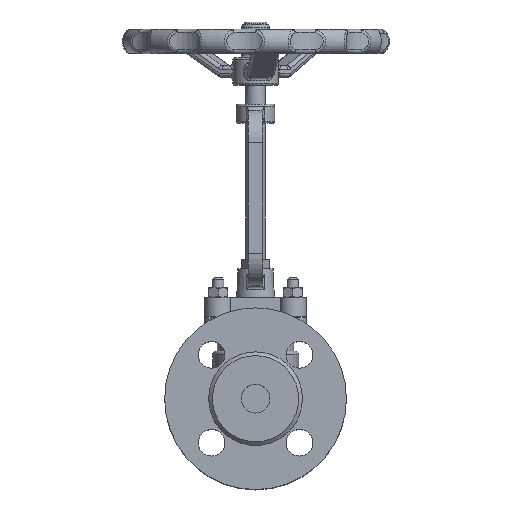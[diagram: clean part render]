
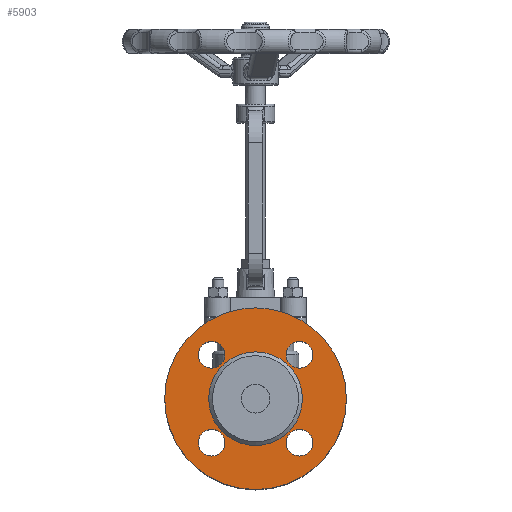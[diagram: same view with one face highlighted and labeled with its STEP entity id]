
A CAD part, top view. The second image highlights one B-rep face of the part: STEP entity #5903.
In plain terms, the highlighted planar face has unit normal (0, 0, 1).
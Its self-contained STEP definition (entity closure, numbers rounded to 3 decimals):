
#5903=ADVANCED_FACE('',(#13825,#13827,#13829,#13831,#13833,#13835),#13837,.F.);
#13825=FACE_BOUND('',#13826,.T.);
#13826=EDGE_LOOP('',(#20973));
#13827=FACE_BOUND('',#13828,.T.);
#13828=EDGE_LOOP('',(#20974));
#13829=FACE_BOUND('',#13830,.T.);
#13830=EDGE_LOOP('',(#20975));
#13831=FACE_BOUND('',#13832,.T.);
#13832=EDGE_LOOP('',(#20976));
#13833=FACE_BOUND('',#13834,.T.);
#13834=EDGE_LOOP('',(#20977));
#13835=FACE_BOUND('',#13836,.T.);
#13836=EDGE_LOOP('',(#20978));
#13837=PLANE('',#13838);
#13838=AXIS2_PLACEMENT_3D('',#13839,#13840,#13841);
#13839=CARTESIAN_POINT('',(0.,0.,63.));
#13840=DIRECTION('',(0.,0.,-1.));
#13841=DIRECTION('',(0.,1.,0.));
#20973=ORIENTED_EDGE('',*,*,#23483,.T.);
#20974=ORIENTED_EDGE('',*,*,#23484,.T.);
#20975=ORIENTED_EDGE('',*,*,#23485,.T.);
#20976=ORIENTED_EDGE('',*,*,#23625,.F.);
#20977=ORIENTED_EDGE('',*,*,#23486,.T.);
#20978=ORIENTED_EDGE('',*,*,#23487,.T.);
#23483=EDGE_CURVE('',#26663,#26663,#26664,.T.);
#23484=EDGE_CURVE('',#26665,#26665,#26666,.T.);
#23485=EDGE_CURVE('',#26667,#26667,#26668,.T.);
#23486=EDGE_CURVE('',#26669,#26669,#26670,.T.);
#23487=EDGE_CURVE('',#26671,#26671,#26672,.T.);
#23625=EDGE_CURVE('',#26883,#26883,#26884,.T.);
#26663=VERTEX_POINT('',#51826);
#26664=CIRCLE('',#51827,47.5);
#26665=VERTEX_POINT('',#51831);
#26666=CIRCLE('',#51832,7.);
#26667=VERTEX_POINT('',#51836);
#26668=CIRCLE('',#51837,7.);
#26669=VERTEX_POINT('',#51841);
#26670=CIRCLE('',#51842,7.);
#26671=VERTEX_POINT('',#51846);
#26672=CIRCLE('',#51847,7.);
#26883=VERTEX_POINT('',#53546);
#26884=CIRCLE('',#53547,24.5);
#51826=CARTESIAN_POINT('',(0.,47.5,63.));
#51827=AXIS2_PLACEMENT_3D('',#51828,#51829,#51830);
#51828=CARTESIAN_POINT('',(0.,0.,63.));
#51829=DIRECTION('',(0.,0.,1.));
#51830=DIRECTION('',(0.,1.,0.));
#51831=CARTESIAN_POINT('',(22.981,-15.981,63.));
#51832=AXIS2_PLACEMENT_3D('',#51833,#51834,#51835);
#51833=CARTESIAN_POINT('',(22.981,-22.981,63.));
#51834=DIRECTION('',(0.,0.,-1.));
#51835=DIRECTION('',(0.,1.,0.));
#51836=CARTESIAN_POINT('',(-22.981,15.981,63.));
#51837=AXIS2_PLACEMENT_3D('',#51838,#51839,#51840);
#51838=CARTESIAN_POINT('',(-22.981,22.981,63.));
#51839=DIRECTION('',(0.,0.,-1.));
#51840=DIRECTION('',(0.,-1.,0.));
#51841=CARTESIAN_POINT('',(15.981,22.981,63.));
#51842=AXIS2_PLACEMENT_3D('',#51843,#51844,#51845);
#51843=CARTESIAN_POINT('',(22.981,22.981,63.));
#51844=DIRECTION('',(0.,0.,-1.));
#51845=DIRECTION('',(-1.,0.,0.));
#51846=CARTESIAN_POINT('',(-15.981,-22.981,63.));
#51847=AXIS2_PLACEMENT_3D('',#51848,#51849,#51850);
#51848=CARTESIAN_POINT('',(-22.981,-22.981,63.));
#51849=DIRECTION('',(0.,0.,-1.));
#51850=DIRECTION('',(1.,0.,0.));
#53546=CARTESIAN_POINT('',(0.,24.5,63.));
#53547=AXIS2_PLACEMENT_3D('',#53548,#53549,#53550);
#53548=CARTESIAN_POINT('',(0.,0.,63.));
#53549=DIRECTION('',(0.,0.,1.));
#53550=DIRECTION('',(0.,1.,0.));
